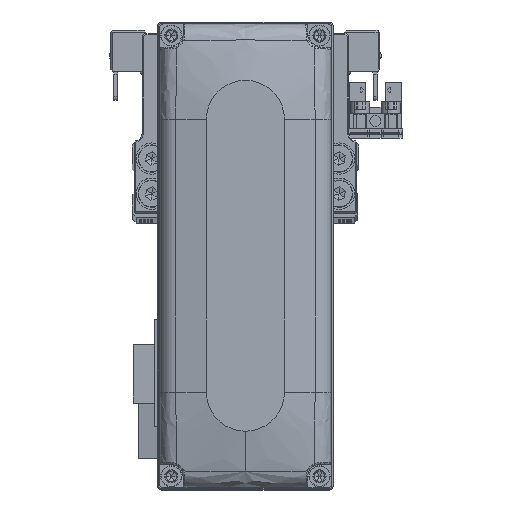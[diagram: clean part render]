
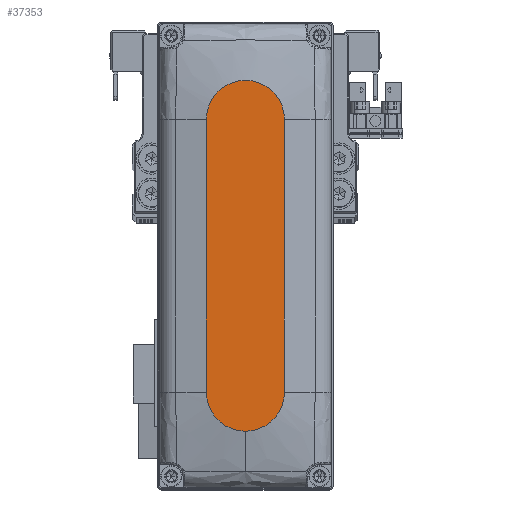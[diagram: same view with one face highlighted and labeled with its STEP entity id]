
A CAD part, top view. The second image highlights one B-rep face of the part: STEP entity #37353.
In plain terms, the highlighted planar face has unit normal (0, 0, 1).
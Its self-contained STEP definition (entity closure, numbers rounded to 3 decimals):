
#566 = VECTOR ( 'NONE', #31594, 1000. ) ;
#1549 = ORIENTED_EDGE ( 'NONE', *, *, #32559, .T. ) ;
#1713 = CIRCLE ( 'NONE', #30126, 10. ) ;
#1848 = CARTESIAN_POINT ( 'NONE',  ( 0., 0., 28. ) ) ;
#2642 = EDGE_LOOP ( 'NONE', ( #21051, #6906, #34137, #35721, #1549 ) ) ;
#3298 = CARTESIAN_POINT ( 'NONE',  ( 35., 0., 28. ) ) ;
#3929 = CARTESIAN_POINT ( 'NONE',  ( -35., -10., 28. ) ) ;
#3946 = CIRCLE ( 'NONE', #9225, 10. ) ;
#5163 = VERTEX_POINT ( 'NONE', #11054 ) ;
#6336 = LINE ( 'NONE', #18979, #566 ) ;
#6906 = ORIENTED_EDGE ( 'NONE', *, *, #17072, .T. ) ;
#8349 = LINE ( 'NONE', #20988, #19520 ) ;
#8407 = CARTESIAN_POINT ( 'NONE',  ( -35., 0., 28. ) ) ;
#9225 = AXIS2_PLACEMENT_3D ( 'NONE', #3298, #15931, #28544 ) ;
#9584 = CARTESIAN_POINT ( 'NONE',  ( -35., 10., 28. ) ) ;
#10975 = CIRCLE ( 'NONE', #34090, 10. ) ;
#11054 = CARTESIAN_POINT ( 'NONE',  ( 45., 0., 28. ) ) ;
#11812 = VERTEX_POINT ( 'NONE', #3929 ) ;
#12581 = CARTESIAN_POINT ( 'NONE',  ( 35., 0., 28. ) ) ;
#13633 = CARTESIAN_POINT ( 'NONE',  ( 35., 10., 28. ) ) ;
#14474 = DIRECTION ( 'NONE',  ( 0., 0., 1. ) ) ;
#15931 = DIRECTION ( 'NONE',  ( 0., 0., 1. ) ) ;
#17072 = EDGE_CURVE ( 'NONE', #28420, #11812, #10975, .T. ) ;
#17579 = FACE_OUTER_BOUND ( 'NONE', #2642, .T. ) ;
#18979 = CARTESIAN_POINT ( 'NONE',  ( -35., 10., 28. ) ) ;
#19520 = VECTOR ( 'NONE', #33601, 1000. ) ;
#20988 = CARTESIAN_POINT ( 'NONE',  ( -35., -10., 28. ) ) ;
#21048 = DIRECTION ( 'NONE',  ( 0., 0., 1. ) ) ;
#21051 = ORIENTED_EDGE ( 'NONE', *, *, #31149, .T. ) ;
#23979 = EDGE_CURVE ( 'NONE', #11812, #32469, #8349, .T. ) ;
#24863 = EDGE_CURVE ( 'NONE', #32469, #5163, #1713, .T. ) ;
#25200 = DIRECTION ( 'NONE',  ( 0., 0., 1. ) ) ;
#26445 = VERTEX_POINT ( 'NONE', #13633 ) ;
#27096 = DIRECTION ( 'NONE',  ( 1., 0., 0. ) ) ;
#28420 = VERTEX_POINT ( 'NONE', #9584 ) ;
#28544 = DIRECTION ( 'NONE',  ( 1., 0., 0. ) ) ;
#30126 = AXIS2_PLACEMENT_3D ( 'NONE', #12581, #25200, #37823 ) ;
#30196 = PLANE ( 'NONE',  #40172 ) ;
#31038 = CARTESIAN_POINT ( 'NONE',  ( 35., -10., 28. ) ) ;
#31149 = EDGE_CURVE ( 'NONE', #26445, #28420, #6336, .T. ) ;
#31594 = DIRECTION ( 'NONE',  ( -1., 0., 0. ) ) ;
#32469 = VERTEX_POINT ( 'NONE', #31038 ) ;
#32559 = EDGE_CURVE ( 'NONE', #5163, #26445, #3946, .T. ) ;
#33601 = DIRECTION ( 'NONE',  ( 1., 0., 0. ) ) ;
#33651 = DIRECTION ( 'NONE',  ( 1., 0., 0. ) ) ;
#34090 = AXIS2_PLACEMENT_3D ( 'NONE', #8407, #21048, #33651 ) ;
#34137 = ORIENTED_EDGE ( 'NONE', *, *, #23979, .T. ) ;
#35721 = ORIENTED_EDGE ( 'NONE', *, *, #24863, .T. ) ;
#37353 = ADVANCED_FACE ( 'NONE', ( #17579 ), #30196, .T. ) ;
#37823 = DIRECTION ( 'NONE',  ( 1., 0., 0. ) ) ;
#40172 = AXIS2_PLACEMENT_3D ( 'NONE', #1848, #14474, #27096 ) ;
